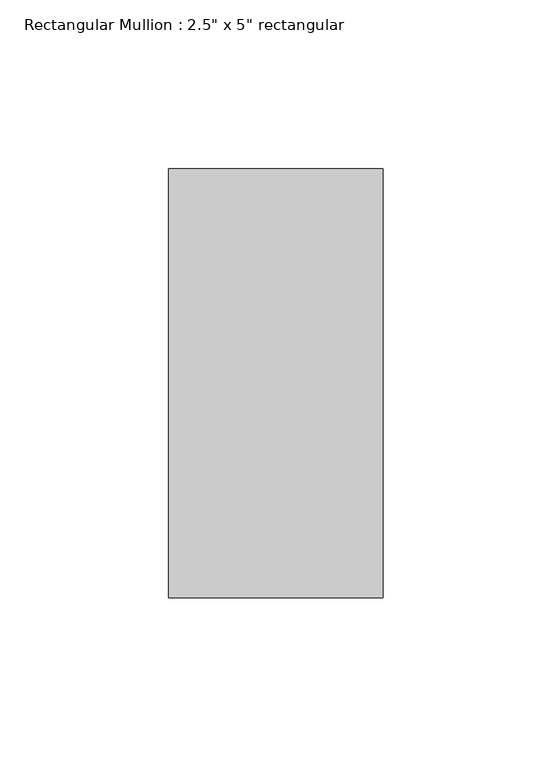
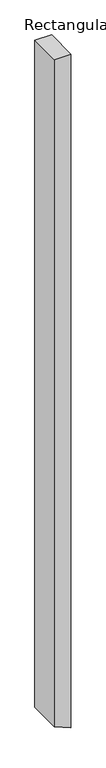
"""IFC4 building model written with IfcOpenShell, lengths in millimetres: member geometry."""

from ifc_helpers import new_model, si_unit, frame, origin, place, context, project, spatial, polyline, outline, extrude, source, transform, mapped, element, save


def member_11fff137(model_context):
    return source(origin(), model_context, "Body", "SweptSolid", [
        extrude(outline(polyline([(0.0, 0.0), (0.0, -63.5), (-2685.1474389, -63.5), (-2711.4500001, 0.0), (0.0, 0.0)])), frame((0.0, -63.5, 0.0), z_axis=(0.0, 1.0, 0.0), x_axis=(0.0, 0.0, 1.0)), (0.0, 0.0, 1.0), 127.0),
    ])


if __name__ == "__main__":
    model = new_model("IFC4")
    model_context = context("Model", 3, world=origin())
    ifc_project = project(units=[si_unit("LENGTHUNIT", "METRE", prefix="MILLI")], contexts=[model_context])
    site = spatial("IfcSite", under=ifc_project)
    building = spatial("IfcBuilding", under=site)
    placement = place(None, origin())
    member_shape = member_11fff137(model_context)
    element("IfcMember", 1, ObjectType="Rectangular Mullion : 2.5\" x 5\" rectangular", at=placement, inside=building, context=model_context, shape_type="MappedRepresentation", body=[
        mapped(member_shape, transform((0.0, 0.0, 0.0), x_axis=(1.0, 0.0, 0.0), y_axis=(0.0, 1.0, 0.0), z_axis=(0.0, 0.0, 1.0))),
    ])
    save(model, "model.ifc")
